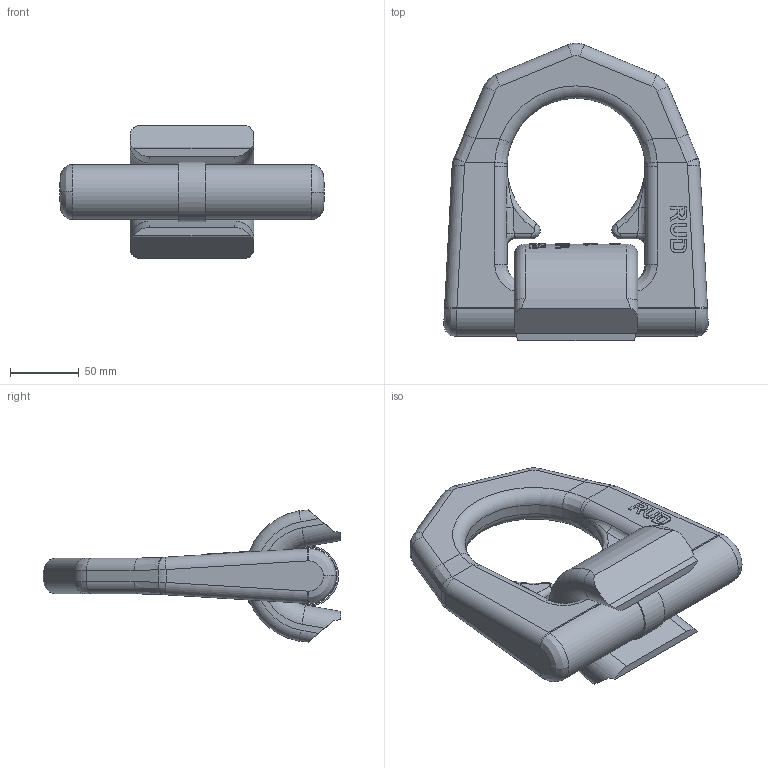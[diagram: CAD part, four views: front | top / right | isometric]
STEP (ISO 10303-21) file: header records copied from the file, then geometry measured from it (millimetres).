
FILE_DESCRIPTION((''),'2;1');
FILE_NAME('001-M35499-P3_ASM','2023-03-06T11:48:50',('Anja.Joas'),(''),'CREO PARAMETRIC BY PTC INC, 2022162','CREO PARAMETRIC BY PTC INC, 2022162','');
FILE_SCHEMA(('AP242_MANAGED_MODEL_BASED_3D_ENGINEERING_MIM_LF { 1 0 10303 442 1 1 4 }'));
Length unit declared in the file: millimetre
Products named in the file (3): 001-M35499-P-30; 001-M35499-P1; 001-M35499-P3_ASM
Assembly tree (2 placements, depth 2):
  001-M35499-P3_ASM
    001-M35499-P-30
    001-M35499-P1
Bounding box: 192.19 x 215.95 x 95.96 mm (x, y, z)
Volume: 989178.6 mm3; surface area: 110029.9 mm2
Topology: 2 solids, 2 shells, 462 faces, 1236 edges, 792 vertices
Faces by surface type: plane 296, cylinder 97, bspline 54, torus 14, extrusion 1
Entity records: 20504 total; most frequent: CARTESIAN_POINT 8244, ORIENTED_EDGE 2472, DIRECTION 1939, EDGE_CURVE 1236, VERTEX_POINT 792, AXIS2_PLACEMENT_3D 685, VECTOR 569, LINE 568
